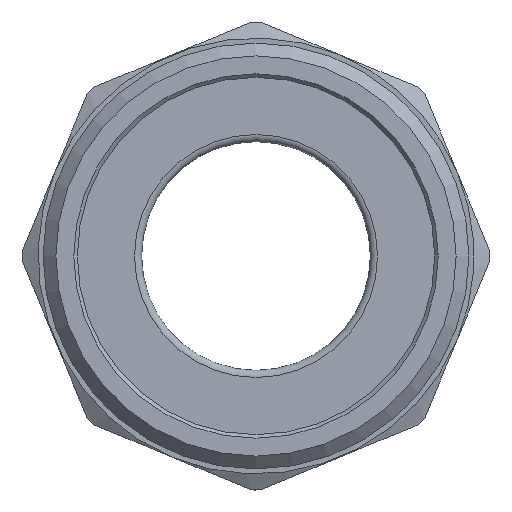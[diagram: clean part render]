
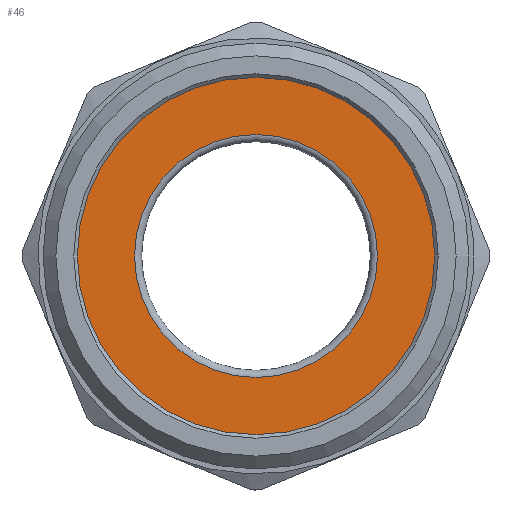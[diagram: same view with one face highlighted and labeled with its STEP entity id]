
A CAD part, front view. The second image highlights one B-rep face of the part: STEP entity #46.
In plain terms, the highlighted planar face has unit normal (0, -1, 0).
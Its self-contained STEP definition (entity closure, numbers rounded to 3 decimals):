
#46=ADVANCED_FACE('',(#102,#104),#106,.T.);
#102=FACE_BOUND('',#103,.T.);
#103=EDGE_LOOP('',(#396));
#104=FACE_BOUND('',#105,.T.);
#105=EDGE_LOOP('',(#397));
#106=PLANE('',#107);
#107=AXIS2_PLACEMENT_3D('',#108,#109,#110);
#108=CARTESIAN_POINT('',(0.,1.,0.));
#109=DIRECTION('',(0.,-1.,0.));
#110=DIRECTION('',(1.,0.,0.));
#396=ORIENTED_EDGE('',*,*,#558,.T.);
#397=ORIENTED_EDGE('',*,*,#559,.F.);
#558=EDGE_CURVE('',#643,#643,#644,.T.);
#559=EDGE_CURVE('',#645,#645,#646,.F.);
#643=VERTEX_POINT('',#791);
#644=CIRCLE('',#792,25.);
#645=VERTEX_POINT('',#796);
#646=CIRCLE('',#797,17.);
#791=CARTESIAN_POINT('',(25.,1.,0.));
#792=AXIS2_PLACEMENT_3D('',#793,#794,#795);
#793=CARTESIAN_POINT('',(0.,1.,0.));
#794=DIRECTION('',(0.,-1.,0.));
#795=DIRECTION('',(1.,0.,0.));
#796=CARTESIAN_POINT('',(-17.,1.,0.));
#797=AXIS2_PLACEMENT_3D('',#798,#799,#800);
#798=CARTESIAN_POINT('',(0.,1.,0.));
#799=DIRECTION('',(0.,1.,0.));
#800=DIRECTION('',(-1.,0.,0.));
